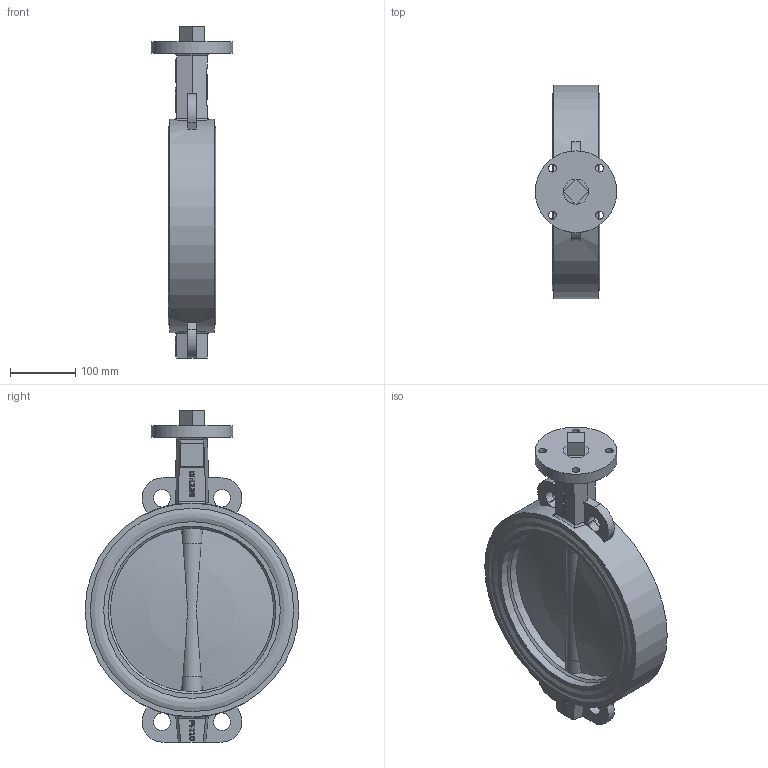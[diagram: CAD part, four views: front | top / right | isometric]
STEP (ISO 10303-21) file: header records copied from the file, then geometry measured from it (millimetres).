
FILE_DESCRIPTION(('STEP AP214'), '1');
FILE_NAME('Ïîâîðîòíûé çàòâîð ïîä ýëåêòðîïðèâîä', '', ('UNSPECIFIED'), ('UNSPECIFIED'), 'C3D Converter', 'C3D Toolkit', '');
FILE_SCHEMA(('AUTOMOTIVE_DESIGN { 1 0 10303 214 3 1 1}'));
Length unit declared in the file: millimetre
Products named in the file (6): П
Assembly tree (6 placements, depth 2):
  (unnamed)
    (unnamed)
    П  x2
    (unnamed)
    (unnamed)
    (unnamed)
Bounding box: 125 x 327 x 508 mm (x, y, z)
Volume: 3832941.2 mm3; surface area: 692157.9 mm2
Topology: 6 solids, 6 shells, 408 faces, 1086 edges, 714 vertices
Faces by surface type: plane 194, extrusion 135, cylinder 57, bspline 8, torus 6, cone 4, sphere 4
Full cylindrical faces by diameter (mm): 11.421 x1, 12 x4, 27 x6, 32.11 x4, 38.184 x5, 125 x1, 250 x1, 256.76 x2, 270.28 x2, 290.753 x4, 311.227 x4, 327 x1
Entity records: 17839 total; most frequent: CARTESIAN_POINT 6223, ORIENTED_EDGE 2072, DIRECTION 1500, EDGE_CURVE 1036, VERTEX_POINT 709, VECTOR 678, LINE 543, EDGE_LOOP 501
